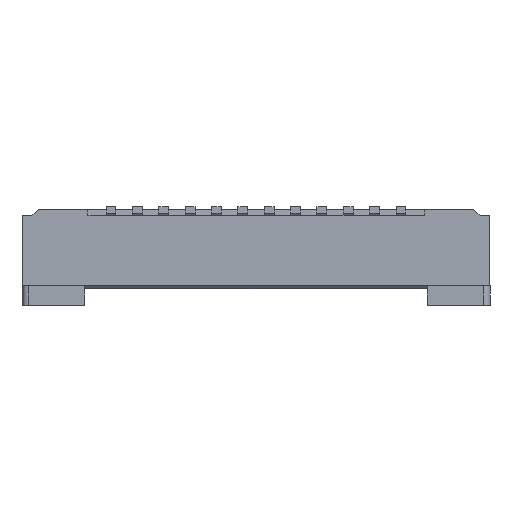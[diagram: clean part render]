
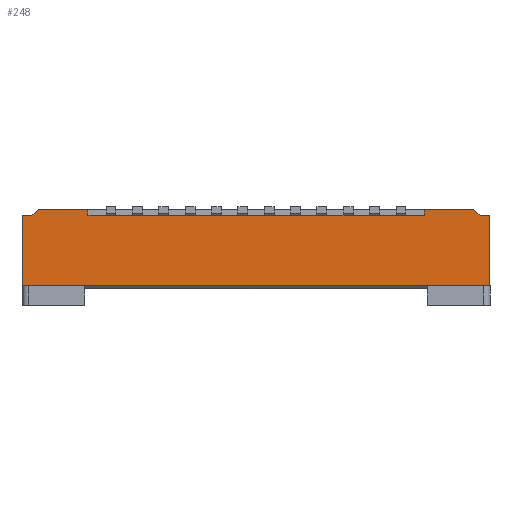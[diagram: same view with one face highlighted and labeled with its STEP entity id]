
A CAD part, front view. The second image highlights one B-rep face of the part: STEP entity #248.
In plain terms, the highlighted planar face has unit normal (0, -1, 0).
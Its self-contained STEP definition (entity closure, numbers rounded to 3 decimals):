
#248 = ADVANCED_FACE ( 'NONE', ( #18619 ), #28996, .T. ) ;
#356 = VECTOR ( 'NONE', #14840, 1000. ) ;
#433 = VECTOR ( 'NONE', #720, 1000. ) ;
#720 = DIRECTION ( 'NONE',  ( -0.781, 0., 0.625 ) ) ;
#836 = EDGE_CURVE ( 'NONE', #29686, #24455, #22301, .T. ) ;
#978 = ORIENTED_EDGE ( 'NONE', *, *, #6034, .T. ) ;
#1331 = CARTESIAN_POINT ( 'NONE',  ( -3.55, -2.05, 0.12 ) ) ;
#1501 = LINE ( 'NONE', #27971, #2257 ) ;
#1504 = ORIENTED_EDGE ( 'NONE', *, *, #26075, .F. ) ;
#1571 = CARTESIAN_POINT ( 'NONE',  ( 3.55, -2.05, -0.95 ) ) ;
#2029 = DIRECTION ( 'NONE',  ( 0., 0., -1. ) ) ;
#2257 = VECTOR ( 'NONE', #22365, 1000. ) ;
#3187 = DIRECTION ( 'NONE',  ( 0., 0., -1. ) ) ;
#3526 = CARTESIAN_POINT ( 'NONE',  ( -2.55, -2.05, 0.12 ) ) ;
#4658 = ORIENTED_EDGE ( 'NONE', *, *, #29837, .F. ) ;
#4873 = ORIENTED_EDGE ( 'NONE', *, *, #26872, .T. ) ;
#4889 = ORIENTED_EDGE ( 'NONE', *, *, #8372, .T. ) ;
#5500 = VECTOR ( 'NONE', #13857, 1000. ) ;
#5718 = CARTESIAN_POINT ( 'NONE',  ( 2.92, -2.05, -0.375 ) ) ;
#5834 = CARTESIAN_POINT ( 'NONE',  ( -3.4, -2.05, 0.12 ) ) ;
#6034 = EDGE_CURVE ( 'NONE', #30076, #26009, #12108, .T. ) ;
#6783 = EDGE_CURVE ( 'NONE', #24455, #20476, #20175, .T. ) ;
#6838 = AXIS2_PLACEMENT_3D ( 'NONE', #5718, #26441, #3187 ) ;
#6842 = DIRECTION ( 'NONE',  ( -1., 0., 0. ) ) ;
#7852 = VECTOR ( 'NONE', #22501, 1000. ) ;
#7910 = CARTESIAN_POINT ( 'NONE',  ( 2.55, -2.05, 0.2 ) ) ;
#8241 = EDGE_CURVE ( 'NONE', #30371, #19607, #25085, .T. ) ;
#8251 = ORIENTED_EDGE ( 'NONE', *, *, #21128, .T. ) ;
#8313 = DIRECTION ( 'NONE',  ( 0., 0., -1. ) ) ;
#8336 = LINE ( 'NONE', #18693, #433 ) ;
#8372 = EDGE_CURVE ( 'NONE', #20223, #21365, #15044, .T. ) ;
#8491 = CARTESIAN_POINT ( 'NONE',  ( -2.325, -2.05, 0.12 ) ) ;
#8825 = CARTESIAN_POINT ( 'NONE',  ( 3.3, -2.05, 0.2 ) ) ;
#9171 = CARTESIAN_POINT ( 'NONE',  ( 3.4, -2.05, 0.12 ) ) ;
#9277 = CARTESIAN_POINT ( 'NONE',  ( -3.55, -2.05, -0.95 ) ) ;
#9554 = CARTESIAN_POINT ( 'NONE',  ( 3.55, -2.05, -0.95 ) ) ;
#10183 = VECTOR ( 'NONE', #11176, 1000. ) ;
#10423 = LINE ( 'NONE', #15178, #22310 ) ;
#10537 = LINE ( 'NONE', #26007, #12282 ) ;
#10670 = ORIENTED_EDGE ( 'NONE', *, *, #26446, .T. ) ;
#11015 = VERTEX_POINT ( 'NONE', #8491 ) ;
#11176 = DIRECTION ( 'NONE',  ( 1., 0., 0. ) ) ;
#11370 = LINE ( 'NONE', #25460, #27705 ) ;
#11474 = EDGE_CURVE ( 'NONE', #26375, #29686, #10423, .T. ) ;
#11812 = CARTESIAN_POINT ( 'NONE',  ( 3.55, -2.05, 0.12 ) ) ;
#12108 = LINE ( 'NONE', #9554, #13846 ) ;
#12282 = VECTOR ( 'NONE', #8313, 1000. ) ;
#12411 = LINE ( 'NONE', #27723, #32546 ) ;
#12622 = EDGE_CURVE ( 'NONE', #28087, #11015, #28997, .T. ) ;
#12711 = ORIENTED_EDGE ( 'NONE', *, *, #15174, .F. ) ;
#12808 = DIRECTION ( 'NONE',  ( -1., 0., 0. ) ) ;
#13382 = VECTOR ( 'NONE', #6842, 1000. ) ;
#13846 = VECTOR ( 'NONE', #30307, 1000. ) ;
#13857 = DIRECTION ( 'NONE',  ( 1., 0., 0. ) ) ;
#14069 = LINE ( 'NONE', #16446, #10183 ) ;
#14721 = CARTESIAN_POINT ( 'NONE',  ( -3.55, -2.05, 0.12 ) ) ;
#14840 = DIRECTION ( 'NONE',  ( 1., 0., 0. ) ) ;
#15044 = LINE ( 'NONE', #26415, #32490 ) ;
#15174 = EDGE_CURVE ( 'NONE', #16094, #26009, #19456, .T. ) ;
#15178 = CARTESIAN_POINT ( 'NONE',  ( 3.3, -2.05, 0.2 ) ) ;
#16094 = VERTEX_POINT ( 'NONE', #23536 ) ;
#16446 = CARTESIAN_POINT ( 'NONE',  ( -3.55, -2.05, -0.95 ) ) ;
#17097 = CARTESIAN_POINT ( 'NONE',  ( -2.55, -2.05, 0.12 ) ) ;
#17288 = CARTESIAN_POINT ( 'NONE',  ( 2.55, -2.05, 0.2 ) ) ;
#18429 = ORIENTED_EDGE ( 'NONE', *, *, #21672, .T. ) ;
#18619 = FACE_OUTER_BOUND ( 'NONE', #19219, .T. ) ;
#18693 = CARTESIAN_POINT ( 'NONE',  ( 3.4, -2.05, 0.12 ) ) ;
#19219 = EDGE_LOOP ( 'NONE', ( #28199, #23002, #4658, #4889, #4873, #29234, #10670, #18429, #978, #12711, #1504, #8251, #22477, #29356, #31555 ) ) ;
#19456 = LINE ( 'NONE', #11812, #7852 ) ;
#19607 = VERTEX_POINT ( 'NONE', #5834 ) ;
#19934 = LINE ( 'NONE', #27771, #356 ) ;
#20175 = LINE ( 'NONE', #17288, #23964 ) ;
#20223 = VERTEX_POINT ( 'NONE', #22880 ) ;
#20476 = VERTEX_POINT ( 'NONE', #21665 ) ;
#21128 = EDGE_CURVE ( 'NONE', #29150, #26375, #8336, .T. ) ;
#21365 = VERTEX_POINT ( 'NONE', #22589 ) ;
#21665 = CARTESIAN_POINT ( 'NONE',  ( 2.55, -2.05, 0.12 ) ) ;
#21672 = EDGE_CURVE ( 'NONE', #23236, #30076, #14069, .T. ) ;
#22301 = LINE ( 'NONE', #32672, #13382 ) ;
#22310 = VECTOR ( 'NONE', #12808, 1000. ) ;
#22365 = DIRECTION ( 'NONE',  ( -0.781, 0., -0.625 ) ) ;
#22477 = ORIENTED_EDGE ( 'NONE', *, *, #11474, .T. ) ;
#22501 = DIRECTION ( 'NONE',  ( 0., 0., -1. ) ) ;
#22589 = CARTESIAN_POINT ( 'NONE',  ( -3.3, -2.05, 0.2 ) ) ;
#22880 = CARTESIAN_POINT ( 'NONE',  ( -2.55, -2.05, 0.2 ) ) ;
#23002 = ORIENTED_EDGE ( 'NONE', *, *, #12622, .F. ) ;
#23236 = VERTEX_POINT ( 'NONE', #9277 ) ;
#23536 = CARTESIAN_POINT ( 'NONE',  ( 3.55, -2.05, 0.12 ) ) ;
#23964 = VECTOR ( 'NONE', #2029, 1000. ) ;
#24455 = VERTEX_POINT ( 'NONE', #7910 ) ;
#25085 = LINE ( 'NONE', #1331, #33560 ) ;
#25460 = CARTESIAN_POINT ( 'NONE',  ( -3.55, -2.05, 0.12 ) ) ;
#26007 = CARTESIAN_POINT ( 'NONE',  ( -2.55, -2.05, 0.2 ) ) ;
#26009 = VERTEX_POINT ( 'NONE', #1571 ) ;
#26075 = EDGE_CURVE ( 'NONE', #29150, #16094, #12411, .T. ) ;
#26375 = VERTEX_POINT ( 'NONE', #8825 ) ;
#26415 = CARTESIAN_POINT ( 'NONE',  ( -3.3, -2.05, 0.2 ) ) ;
#26441 = DIRECTION ( 'NONE',  ( 0., -1., 0. ) ) ;
#26446 = EDGE_CURVE ( 'NONE', #30371, #23236, #11370, .T. ) ;
#26872 = EDGE_CURVE ( 'NONE', #21365, #19607, #1501, .T. ) ;
#27705 = VECTOR ( 'NONE', #32600, 1000. ) ;
#27723 = CARTESIAN_POINT ( 'NONE',  ( 3.4, -2.05, 0.12 ) ) ;
#27771 = CARTESIAN_POINT ( 'NONE',  ( 2.55, -2.05, 0.12 ) ) ;
#27971 = CARTESIAN_POINT ( 'NONE',  ( -3.3, -2.05, 0.2 ) ) ;
#28087 = VERTEX_POINT ( 'NONE', #17097 ) ;
#28199 = ORIENTED_EDGE ( 'NONE', *, *, #30790, .F. ) ;
#28996 = PLANE ( 'NONE',  #6838 ) ;
#28997 = LINE ( 'NONE', #3526, #5500 ) ;
#29150 = VERTEX_POINT ( 'NONE', #9171 ) ;
#29234 = ORIENTED_EDGE ( 'NONE', *, *, #8241, .F. ) ;
#29356 = ORIENTED_EDGE ( 'NONE', *, *, #836, .T. ) ;
#29686 = VERTEX_POINT ( 'NONE', #32306 ) ;
#29837 = EDGE_CURVE ( 'NONE', #20223, #28087, #10537, .T. ) ;
#30076 = VERTEX_POINT ( 'NONE', #32602 ) ;
#30307 = DIRECTION ( 'NONE',  ( 1., 0., 0. ) ) ;
#30371 = VERTEX_POINT ( 'NONE', #14721 ) ;
#30790 = EDGE_CURVE ( 'NONE', #11015, #20476, #19934, .T. ) ;
#31555 = ORIENTED_EDGE ( 'NONE', *, *, #6783, .T. ) ;
#32026 = DIRECTION ( 'NONE',  ( -1., 0., 0. ) ) ;
#32306 = CARTESIAN_POINT ( 'NONE',  ( 3.25, -2.05, 0.2 ) ) ;
#32490 = VECTOR ( 'NONE', #32026, 1000. ) ;
#32546 = VECTOR ( 'NONE', #32638, 1000. ) ;
#32564 = DIRECTION ( 'NONE',  ( 1., 0., 0. ) ) ;
#32600 = DIRECTION ( 'NONE',  ( 0., 0., -1. ) ) ;
#32602 = CARTESIAN_POINT ( 'NONE',  ( -2.325, -2.05, -0.95 ) ) ;
#32638 = DIRECTION ( 'NONE',  ( 1., 0., 0. ) ) ;
#32672 = CARTESIAN_POINT ( 'NONE',  ( 3.25, -2.05, 0.2 ) ) ;
#33560 = VECTOR ( 'NONE', #32564, 1000. ) ;
